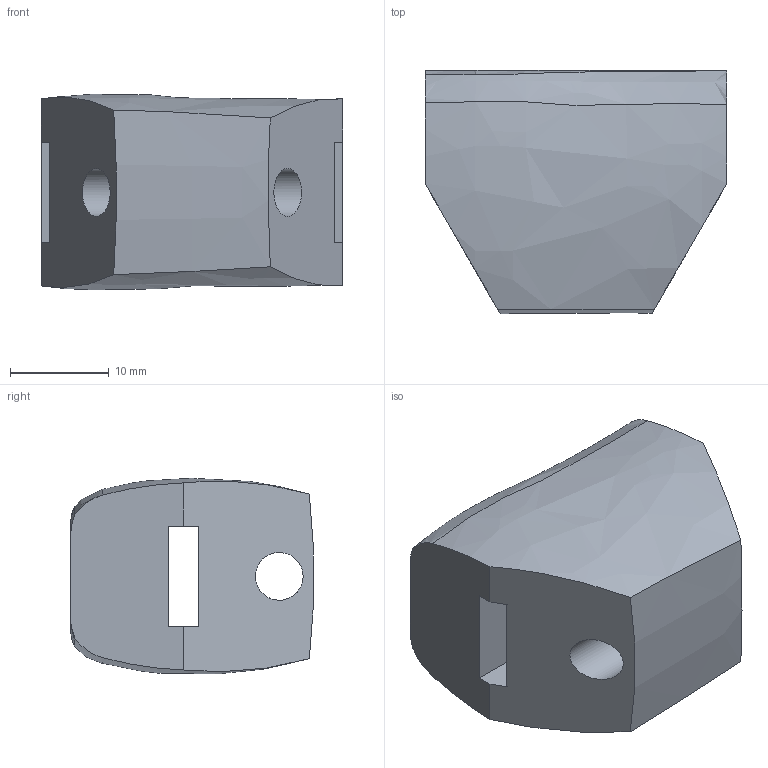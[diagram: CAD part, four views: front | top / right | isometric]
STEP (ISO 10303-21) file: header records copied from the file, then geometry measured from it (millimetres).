
FILE_DESCRIPTION(/* description */ (''),/* implementation_level */ '2;1');
FILE_NAME(/* name */ 'C:/Users/Ryan/Documents/AIO Robotics/CAD Files/FingerPhalanx.step',/* time_stamp */ '2017-02-04T20:51:36-08:00',/* author */ (''),/* organization */ (''),/* preprocessor_version */ 'ST-DEVELOPER v16.5',/* originating_system */ 'Autodesk Translation Framework v5.2.0.2920',/* authorisation */ '');
FILE_SCHEMA (('AUTOMOTIVE_DESIGN { 1 0 10303 214 3 1 1 }'));
Length unit declared in the file: inch
Products named in the file (1): FingerPhalanx v12
Bounding box: 30.48 x 24.54 x 19.73 mm (x, y, z)
Volume: 10266 mm3; surface area: 3862.1 mm2
Topology: 1 solids, 1 shells, 19 faces, 66 edges, 44 vertices
Faces by surface type: plane 9, bspline 9, cylinder 1
Full cylindrical faces by diameter (mm): 4.826 x1
Entity records: 1719 total; most frequent: CARTESIAN_POINT 1192, ORIENTED_EDGE 124, DIRECTION 76, EDGE_CURVE 62, VERTEX_POINT 44, AXIS2_PLACEMENT_3D 27, B_SPLINE_CURVE_WITH_KNOTS 24, EDGE_LOOP 22
